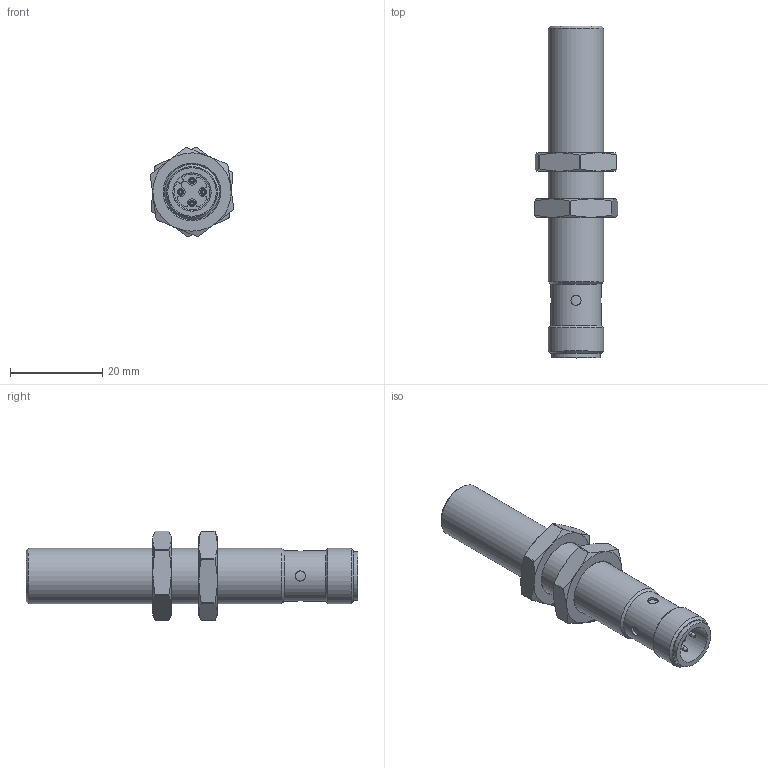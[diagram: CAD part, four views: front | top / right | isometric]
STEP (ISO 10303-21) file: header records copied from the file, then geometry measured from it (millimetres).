
FILE_DESCRIPTION((''),'2;1');
FILE_NAME('C:\TurckZip\Bi-M12EE-X-H1.stp','2009-01-22T08:49:44',('IKOROL'),(''),'Autodesk Inventor 2009','Autodesk Inventor 2009','');
FILE_SCHEMA(('CONFIG_CONTROL_DESIGN'));
Length unit declared in the file: millimetre
Products named in the file (1): Part1
Bounding box: 18.1 x 72 x 19.45 mm (x, y, z)
Volume: 8518.5 mm3; surface area: 4199.4 mm2
Topology: 1 solids, 2 shells, 134 faces, 312 edges, 195 vertices
Faces by surface type: cylinder 52, plane 38, cone 37, torus 4, bspline 3
Full cylindrical faces by diameter (mm): 1 x8, 2.2 x4, 8.3 x1, 9.6 x1, 9.9 x1, 10.5 x1, 11 x1, 12 x4
Entity records: 4141 total; most frequent: CARTESIAN_POINT 1209, DIRECTION 592, ORIENTED_EDGE 514, AXIS2_PLACEMENT_3D 261, EDGE_CURVE 257, EDGE_LOOP 190, VERTEX_POINT 181, FACE_OUTER_BOUND 134
